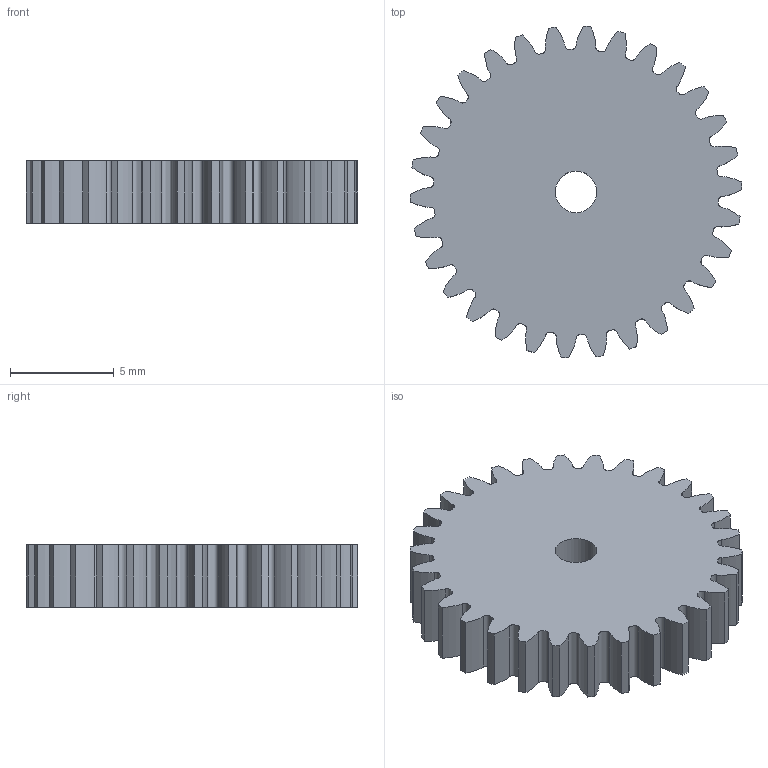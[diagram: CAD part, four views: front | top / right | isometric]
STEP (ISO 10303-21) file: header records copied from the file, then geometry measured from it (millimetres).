
FILE_DESCRIPTION(/* description */ (''),/* implementation_level */ '2;1');
FILE_NAME(/* name */ '小齿轮.stp',/* time_stamp */ '2026-05-25T15:17:56+08:00',/* author */ (''),/* organization */ (''),/* preprocessor_version */ 'ST-DEVELOPER v20',/* originating_system */ 'SIEMENS PLM Software NX2412.1700',/* authorisation */ '');
FILE_SCHEMA (('AUTOMOTIVE_DESIGN { 1 0 10303 214 3 1 1 1 }'));
Products named in the file (1): 小齿轮
Bounding box: 16 x 15.98 x 3 mm (x, y, z)
Volume: 514.8 mm3; surface area: 641 mm2
Topology: 1 solids, 1 shells, 123 faces, 363 edges, 242 vertices
Faces by surface type: bspline 90, cylinder 31, plane 2
Full cylindrical faces by diameter (mm): 2 x1
Entity records: 32692 total; most frequent: CARTESIAN_POINT 30218, ORIENTED_EDGE 724, EDGE_CURVE 362, DIRECTION 312, VERTEX_POINT 242, EDGE_LOOP 126, ADVANCED_FACE 123, FACE_OUTER_BOUND 120
